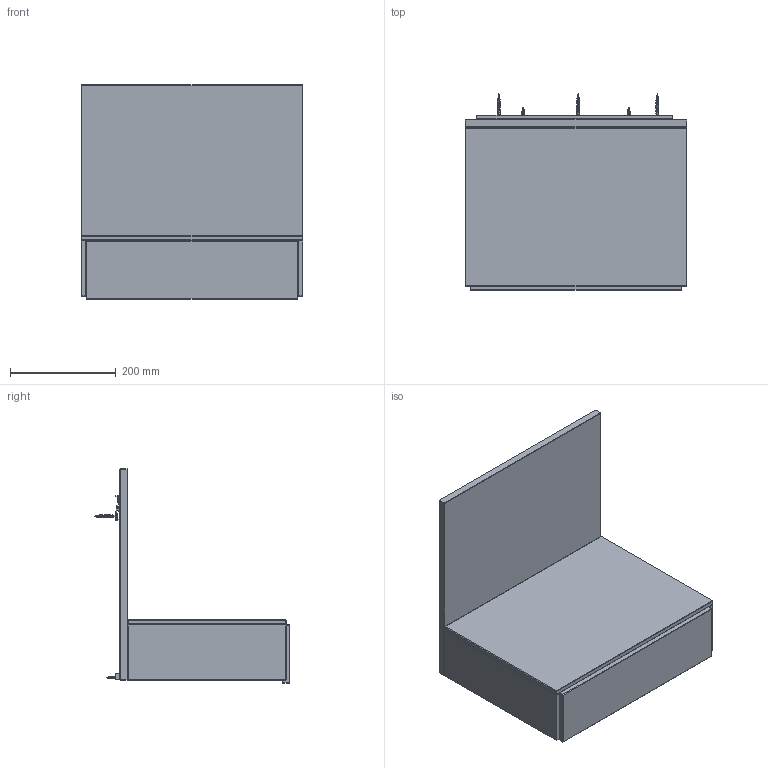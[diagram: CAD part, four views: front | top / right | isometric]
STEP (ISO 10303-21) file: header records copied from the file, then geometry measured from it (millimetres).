
FILE_DESCRIPTION(/* description */ (''),/* implementation_level */ '2;1');
FILE_NAME(/* name */ 'Tana Wall Mounted Nightstand',/* time_stamp */ '2023-11-14T16:51:58+01:00',/* author */ (''),/* organization */ (''),/* preprocessor_version */ 'ST-DEVELOPER v16.5',/* originating_system */ 'Rhino 7.34',/* authorisation */ '');
FILE_SCHEMA (('CONFIG_CONTROL_DESIGN'));
Length unit declared in the file: millimetre
Products named in the file (1): Document
Bounding box: 420 x 370.99 x 405.5 mm (x, y, z)
Volume: 6948416.6 mm3; surface area: 1440040.8 mm2
Topology: 34 solids, 34 shells, 1401 faces, 3863 edges, 2560 vertices
Faces by surface type: cylinder 575, plane 532, bspline 294
Full cylindrical faces by diameter (mm): 2.318 x8, 2.864 x50, 3.409 x2, 3.477 x8, 4 x4, 5 x24, 5.409 x8, 7.727 x18, 8 x7, 9 x2
Entity records: 95487 total; most frequent: CARTESIAN_POINT 70426, ORIENTED_EDGE 7702, EDGE_CURVE 3851, B_SPLINE_CURVE_WITH_KNOTS 2972, VERTEX_POINT 2558, EDGE_LOOP 1505, ADVANCED_FACE 1401, FACE_OUTER_BOUND 1401
